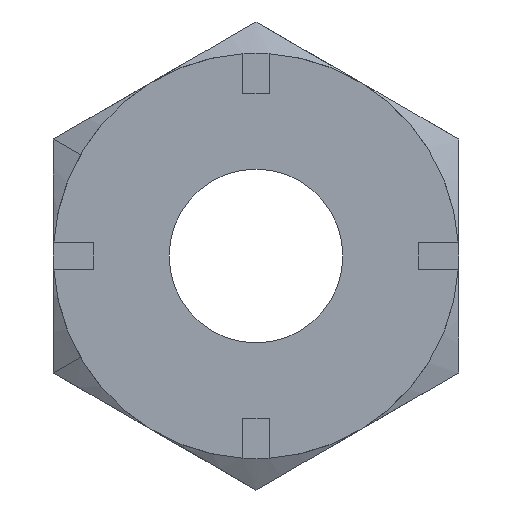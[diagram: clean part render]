
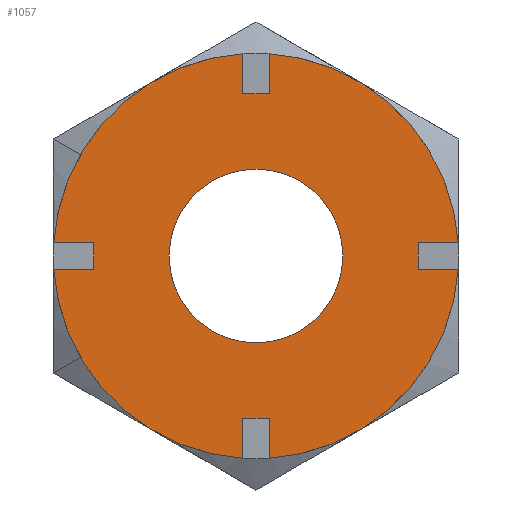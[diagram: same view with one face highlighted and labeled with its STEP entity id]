
A CAD part, left-side view. The second image highlights one B-rep face of the part: STEP entity #1057.
In plain terms, the highlighted planar face has unit normal (-1, 0, 0).
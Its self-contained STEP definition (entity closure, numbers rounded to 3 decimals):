
#130=CARTESIAN_POINT('',(-15.0,0.,3.));
#131=VERTEX_POINT('',#130);
#140=CARTESIAN_POINT('',(-15.0,3.,0.0));
#141=VERTEX_POINT('',#140);
#142=CARTESIAN_POINT('',(-15.0,0.0,0.0));
#143=DIRECTION('',(1.0,0.0,0.0));
#144=DIRECTION('',(0.0,1.0,0.0));
#145=AXIS2_PLACEMENT_3D('',#142,#143,#144);
#146=CIRCLE('',#145,3.);
#147=EDGE_CURVE('',#141,#131,#146,.T.);
#341=CARTESIAN_POINT('',(-15.0,0.,-3.));
#342=VERTEX_POINT('',#341);
#351=CARTESIAN_POINT('',(-15.0,-3.,0.));
#352=VERTEX_POINT('',#351);
#353=CARTESIAN_POINT('',(-15.0,0.0,0.0));
#354=DIRECTION('',(1.0,0.0,0.0));
#355=DIRECTION('',(0.0,1.0,0.0));
#356=AXIS2_PLACEMENT_3D('',#353,#354,#355);
#357=CIRCLE('',#356,3.);
#358=EDGE_CURVE('',#352,#342,#357,.T.);
#392=CARTESIAN_POINT('',(-15.0,0.0,0.0));
#393=DIRECTION('',(1.0,0.0,0.0));
#394=DIRECTION('',(0.0,1.0,0.0));
#395=AXIS2_PLACEMENT_3D('',#392,#393,#394);
#396=CIRCLE('',#395,3.);
#397=EDGE_CURVE('',#342,#141,#396,.T.);
#407=CARTESIAN_POINT('',(-15.0,6.986,0.45));
#408=VERTEX_POINT('',#407);
#423=CARTESIAN_POINT('',(-15.0,5.6,0.45));
#424=VERTEX_POINT('',#423);
#431=CARTESIAN_POINT('',(-15.0,6.986,0.45));
#432=DIRECTION('',(0.0,-1.0,0.0));
#433=VECTOR('',#432,1.386);
#434=LINE('',#431,#433);
#435=EDGE_CURVE('',#408,#424,#434,.T.);
#445=CARTESIAN_POINT('',(-15.0,6.986,-0.45));
#446=VERTEX_POINT('',#445);
#455=CARTESIAN_POINT('',(-15.0,5.6,-0.45));
#456=VERTEX_POINT('',#455);
#457=CARTESIAN_POINT('',(-15.0,5.6,-0.45));
#458=DIRECTION('',(0.0,1.0,0.0));
#459=VECTOR('',#458,1.386);
#460=LINE('',#457,#459);
#461=EDGE_CURVE('',#456,#446,#460,.T.);
#492=CARTESIAN_POINT('',(-15.0,5.6,0.45));
#493=DIRECTION('',(0.0,0.0,-1.0));
#494=VECTOR('',#493,0.9);
#495=LINE('',#492,#494);
#496=EDGE_CURVE('',#424,#456,#495,.T.);
#528=CARTESIAN_POINT('',(-15.0,-0.45,6.986));
#529=VERTEX_POINT('',#528);
#544=CARTESIAN_POINT('',(-15.0,-0.45,5.6));
#545=VERTEX_POINT('',#544);
#552=CARTESIAN_POINT('',(-15.0,-0.45,6.986));
#553=DIRECTION('',(0.0,0.0,-1.0));
#554=VECTOR('',#553,1.386);
#555=LINE('',#552,#554);
#556=EDGE_CURVE('',#529,#545,#555,.T.);
#566=CARTESIAN_POINT('',(-15.0,0.45,6.986));
#567=VERTEX_POINT('',#566);
#576=CARTESIAN_POINT('',(-15.0,0.45,5.6));
#577=VERTEX_POINT('',#576);
#578=CARTESIAN_POINT('',(-15.0,0.45,5.6));
#579=DIRECTION('',(0.0,0.0,1.0));
#580=VECTOR('',#579,1.386);
#581=LINE('',#578,#580);
#582=EDGE_CURVE('',#577,#567,#581,.T.);
#613=CARTESIAN_POINT('',(-15.0,-0.45,5.6));
#614=DIRECTION('',(0.0,1.0,0.0));
#615=VECTOR('',#614,0.9);
#616=LINE('',#613,#615);
#617=EDGE_CURVE('',#545,#577,#616,.T.);
#648=CARTESIAN_POINT('',(-15.0,-6.986,-0.45));
#649=VERTEX_POINT('',#648);
#664=CARTESIAN_POINT('',(-15.0,-5.6,-0.45));
#665=VERTEX_POINT('',#664);
#672=CARTESIAN_POINT('',(-15.0,-6.986,-0.45));
#673=DIRECTION('',(0.0,1.0,0.0));
#674=VECTOR('',#673,1.386);
#675=LINE('',#672,#674);
#676=EDGE_CURVE('',#649,#665,#675,.T.);
#686=CARTESIAN_POINT('',(-15.0,-6.986,0.45));
#687=VERTEX_POINT('',#686);
#696=CARTESIAN_POINT('',(-15.0,-5.6,0.45));
#697=VERTEX_POINT('',#696);
#698=CARTESIAN_POINT('',(-15.0,-5.6,0.45));
#699=DIRECTION('',(0.0,-1.0,0.0));
#700=VECTOR('',#699,1.386);
#701=LINE('',#698,#700);
#702=EDGE_CURVE('',#697,#687,#701,.T.);
#733=CARTESIAN_POINT('',(-15.0,-5.6,-0.45));
#734=DIRECTION('',(0.0,0.0,1.0));
#735=VECTOR('',#734,0.9);
#736=LINE('',#733,#735);
#737=EDGE_CURVE('',#665,#697,#736,.T.);
#777=CARTESIAN_POINT('',(-15.0,0.45,-6.986));
#778=VERTEX_POINT('',#777);
#793=CARTESIAN_POINT('',(-15.0,0.45,-5.6));
#794=VERTEX_POINT('',#793);
#801=CARTESIAN_POINT('',(-15.0,0.45,-6.986));
#802=DIRECTION('',(0.0,0.0,1.0));
#803=VECTOR('',#802,1.386);
#804=LINE('',#801,#803);
#805=EDGE_CURVE('',#778,#794,#804,.T.);
#815=CARTESIAN_POINT('',(-15.0,-0.45,-6.986));
#816=VERTEX_POINT('',#815);
#825=CARTESIAN_POINT('',(-15.0,-0.45,-5.6));
#826=VERTEX_POINT('',#825);
#827=CARTESIAN_POINT('',(-15.0,-0.45,-5.6));
#828=DIRECTION('',(0.0,0.0,-1.0));
#829=VECTOR('',#828,1.386);
#830=LINE('',#827,#829);
#831=EDGE_CURVE('',#826,#816,#830,.T.);
#862=CARTESIAN_POINT('',(-15.0,0.45,-5.6));
#863=DIRECTION('',(0.0,-1.0,0.0));
#864=VECTOR('',#863,0.9);
#865=LINE('',#862,#864);
#866=EDGE_CURVE('',#794,#826,#865,.T.);
#896=CARTESIAN_POINT('',(-15.0,0.0,0.0));
#897=DIRECTION('',(1.0,0.0,0.0));
#898=DIRECTION('',(0.0,1.0,0.0));
#899=AXIS2_PLACEMENT_3D('',#896,#897,#898);
#900=CIRCLE('',#899,7.);
#901=EDGE_CURVE('',#649,#816,#900,.T.);
#929=CARTESIAN_POINT('',(-15.0,0.0,0.0));
#930=DIRECTION('',(1.0,0.0,0.0));
#931=DIRECTION('',(0.0,1.0,0.0));
#932=AXIS2_PLACEMENT_3D('',#929,#930,#931);
#933=CIRCLE('',#932,7.);
#934=EDGE_CURVE('',#529,#687,#933,.T.);
#978=CARTESIAN_POINT('',(-15.0,0.0,0.0));
#979=DIRECTION('',(1.0,0.0,0.0));
#980=DIRECTION('',(0.0,1.0,0.0));
#981=AXIS2_PLACEMENT_3D('',#978,#979,#980);
#982=CIRCLE('',#981,7.);
#983=EDGE_CURVE('',#778,#446,#982,.T.);
#994=CARTESIAN_POINT('',(-15.0,0.0,0.0));
#995=DIRECTION('',(1.0,0.0,0.0));
#996=DIRECTION('',(0.0,1.0,0.0));
#997=AXIS2_PLACEMENT_3D('',#994,#995,#996);
#998=CIRCLE('',#997,7.);
#999=EDGE_CURVE('',#408,#567,#998,.T.);
#1022=CARTESIAN_POINT('',(-15.0,-7.684,-7.684));
#1023=DIRECTION('',(-1.0,0.0,0.0));
#1024=DIRECTION('',(0.0,0.0,1.0));
#1025=AXIS2_PLACEMENT_3D('',#1022,#1023,#1024);
#1026=PLANE('',#1025);
#1027=ORIENTED_EDGE('',*,*,#435,.T.);
#1028=ORIENTED_EDGE('',*,*,#496,.T.);
#1029=ORIENTED_EDGE('',*,*,#461,.T.);
#1030=ORIENTED_EDGE('',*,*,#983,.F.);
#1031=ORIENTED_EDGE('',*,*,#805,.T.);
#1032=ORIENTED_EDGE('',*,*,#866,.T.);
#1033=ORIENTED_EDGE('',*,*,#831,.T.);
#1034=ORIENTED_EDGE('',*,*,#901,.F.);
#1035=ORIENTED_EDGE('',*,*,#676,.T.);
#1036=ORIENTED_EDGE('',*,*,#737,.T.);
#1037=ORIENTED_EDGE('',*,*,#702,.T.);
#1038=ORIENTED_EDGE('',*,*,#934,.F.);
#1039=ORIENTED_EDGE('',*,*,#556,.T.);
#1040=ORIENTED_EDGE('',*,*,#617,.T.);
#1041=ORIENTED_EDGE('',*,*,#582,.T.);
#1042=ORIENTED_EDGE('',*,*,#999,.F.);
#1043=EDGE_LOOP('',(#1027,#1028,#1029,#1030,#1031,#1032,#1033,#1034,#1035,#1036,#1037,#1038,#1039,#1040,#1041,#1042));
#1044=FACE_OUTER_BOUND('',#1043,.T.);
#1045=ORIENTED_EDGE('',*,*,#147,.T.);
#1046=CARTESIAN_POINT('',(-15.0,0.0,0.0));
#1047=DIRECTION('',(1.0,0.0,0.0));
#1048=DIRECTION('',(0.0,1.0,0.0));
#1049=AXIS2_PLACEMENT_3D('',#1046,#1047,#1048);
#1050=CIRCLE('',#1049,3.);
#1051=EDGE_CURVE('',#131,#352,#1050,.T.);
#1052=ORIENTED_EDGE('',*,*,#1051,.T.);
#1053=ORIENTED_EDGE('',*,*,#358,.T.);
#1054=ORIENTED_EDGE('',*,*,#397,.T.);
#1055=EDGE_LOOP('',(#1045,#1052,#1053,#1054));
#1056=FACE_BOUND('',#1055,.T.);
#1057=ADVANCED_FACE('',(#1044,#1056),#1026,.T.);
